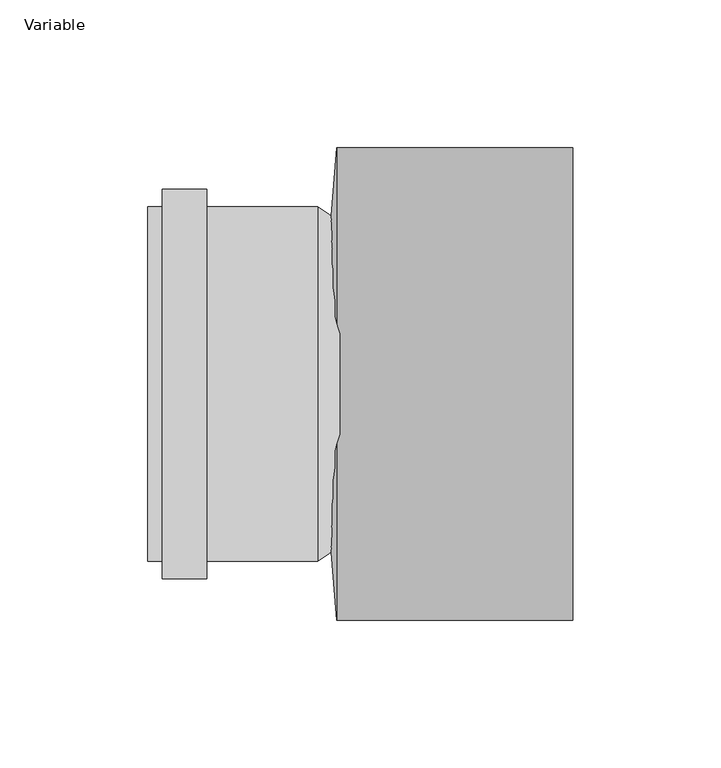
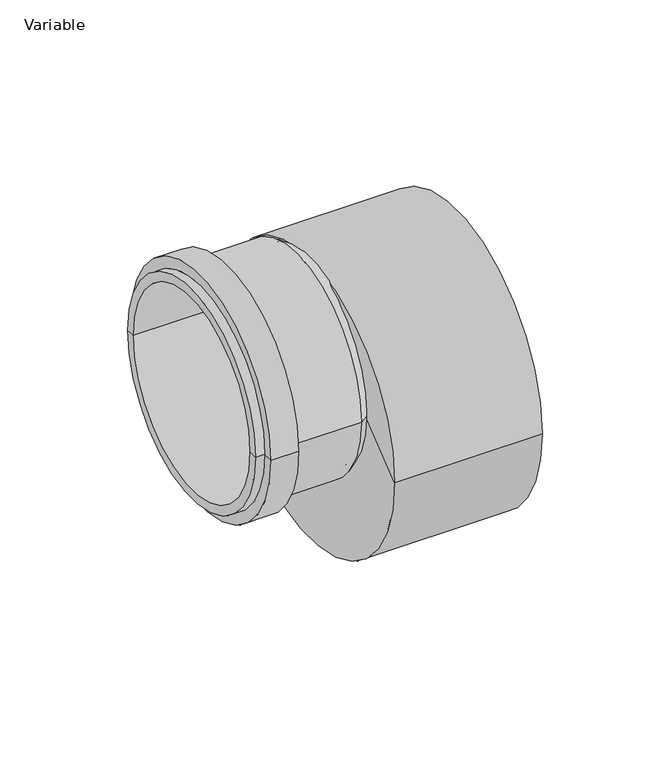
"""IFC4 building model written with IfcOpenShell, lengths in millimetres: pipe fitting geometry, AliaxisFR_Friaphon_Reducer_FR : Variable."""

from ifc_helpers import new_model, si_unit, point, frame, frame_2d, origin, origin_2d, place, context, project, spatial, polyline, circle_curve, trimmed, segment, composite_curve, outline, extrude, source, transform, mapped, element, save
from ifc_brep_helpers import plane_surface, cylinder_surface, revolved_surface, spline_surface, advanced_brep


def variable_2b32ee90(model_context):
    return source(origin(), model_context, "Body", "SolidModel", [
        advanced_brep(
        [(-102.0, -60.0, 0.0), (-102.0, 60.0, 0.0), (-102.0, 55.0, 0.0), (-102.0, -55.0, 0.0), (-82.0, -66.0, 0.0), (-82.0, 66.0, 0.0), (-97.0, 66.0, 0.0), (-97.0, -66.0, 0.0), (-82.0, -60.0, 0.0), (-82.0, 60.0, 0.0), (-44.5, -60.0, 0.0), (-44.5, 60.0, 0.0), (-37.0, 55.0, 0.0), (-37.0, -55.0, 0.0), (-97.0, -60.0, 0.0), (-97.0, 60.0, 0.0)],
        [
            (0, 1, circle_curve(frame((-102.0, 0.0, 0.0), z_axis=(-1.0, 0.0, 0.0), x_axis=(0.0, 1.0, 0.0)), 60.0)),
            (1, 2),
            (2, 3, circle_curve(frame((-102.0, 0.0, 0.0), z_axis=(1.0, 0.0, 0.0), x_axis=(0.0, 1.0, 0.0)), 55.0)),
            (3, 0),
            (1, 0, circle_curve(frame((-102.0, 0.0, 0.0), z_axis=(-1.0, 0.0, 0.0), x_axis=(0.0, 1.0, 0.0)), 60.0)),
            (3, 2, circle_curve(frame((-102.0, 0.0, 0.0), z_axis=(1.0, 0.0, 0.0), x_axis=(0.0, 1.0, 0.0)), 55.0)),
            (4, 5, circle_curve(frame((-82.0, 0.0, 0.0), z_axis=(-1.0, 0.0, 0.0), x_axis=(0.0, 1.0, 0.0)), 66.0)),
            (5, 6),
            (6, 7, circle_curve(frame((-97.0, 0.0, 0.0), z_axis=(1.0, 0.0, 0.0), x_axis=(0.0, 1.0, 0.0)), 66.0)),
            (7, 4),
            (5, 4, circle_curve(frame((-82.0, 0.0, 0.0), z_axis=(-1.0, 0.0, 0.0), x_axis=(0.0, 1.0, 0.0)), 66.0)),
            (7, 6, circle_curve(frame((-97.0, 0.0, 0.0), z_axis=(1.0, 0.0, 0.0), x_axis=(0.0, 1.0, 0.0)), 66.0)),
            (8, 9, circle_curve(frame((-82.0, 0.0, 0.0), z_axis=(-1.0, 0.0, 0.0), x_axis=(0.0, 1.0, 0.0)), 60.0)),
            (9, 5),
            (4, 8),
            (9, 8, circle_curve(frame((-82.0, 0.0, 0.0), z_axis=(-1.0, 0.0, 0.0), x_axis=(0.0, 1.0, 0.0)), 60.0)),
            (10, 11, circle_curve(frame((-44.5, 0.0, 0.0), z_axis=(-1.0, 0.0, 0.0), x_axis=(0.0, 1.0, 0.0)), 60.0)),
            (11, 9),
            (8, 10),
            (11, 10, circle_curve(frame((-44.5, 0.0, 0.0), z_axis=(-1.0, 0.0, 0.0), x_axis=(0.0, 1.0, 0.0)), 60.0)),
            (2, 12),
            (12, 13, circle_curve(frame((-37.0, 0.0, 0.0), z_axis=(1.0, 0.0, 0.0), x_axis=(0.0, 1.0, 0.0)), 55.0)),
            (13, 3),
            (13, 12, circle_curve(frame((-37.0, 0.0, 0.0), z_axis=(1.0, 0.0, 0.0), x_axis=(0.0, 1.0, 0.0)), 55.0)),
            (12, 11),
            (10, 13),
            (14, 15, circle_curve(frame((-97.0, 0.0, 0.0), z_axis=(-1.0, 0.0, 0.0), x_axis=(0.0, 1.0, 0.0)), 60.0)),
            (15, 1),
            (0, 14),
            (15, 14, circle_curve(frame((-97.0, 0.0, 0.0), z_axis=(-1.0, 0.0, 0.0), x_axis=(0.0, 1.0, 0.0)), 60.0)),
            (6, 15),
            (14, 7),
        ],
        [
            plane_surface(frame((-102.0, 0.0, 0.0), z_axis=(-1.0, 0.0, 0.0), x_axis=(0.0, 1.0, 0.0))),
            cylinder_surface(frame((-37.0, 0.0, 0.0), z_axis=(1.0, 0.0, 0.0), x_axis=(0.0, 1.0, 0.0)), 66.0),
            plane_surface(frame((-82.0, 0.0, 0.0), z_axis=(1.0, 0.0, 0.0), x_axis=(0.0, 1.0, 0.0))),
            cylinder_surface(frame((-37.0, 0.0, 0.0), z_axis=(1.0, 0.0, 0.0), x_axis=(0.0, 1.0, 0.0)), 60.0),
            revolved_surface(polyline([(-37.0, 55.0, 0.0), (-102.0, 55.0, 0.0)]), (-37.0, 0.0, 0.0), (1.0, 0.0, 0.0)),
            revolved_surface(polyline([(-44.5, 60.0, 0.0), (-37.0, 55.0, 0.0)]), (-37.0, 0.0, 0.0), (1.0, 0.0, 0.0)),
            plane_surface(frame((-97.0, 0.0, 0.0), z_axis=(-1.0, 0.0, 0.0), x_axis=(0.0, 1.0, 0.0))),
        ],
        [
            (0, [[1, 2, 3, 4]]),
            (0, [[5, -4, 6, -2]]),
            (1, [[7, 8, 9, 10]]),
            (1, [[11, -10, 12, -8]]),
            (2, [[13, 14, -7, 15]]),
            (2, [[16, -15, -11, -14]]),
            (3, [[17, 18, -13, 19]]),
            (3, [[20, -19, -16, -18]]),
            (4, [[-3, 21, 22, 23]]),
            (4, [[-6, -23, 24, -21]]),
            (5, [[-22, 25, -17, 26]]),
            (5, [[-24, -26, -20, -25]]),
            (3, [[27, 28, -1, 29]]),
            (3, [[30, -29, -5, -28]]),
            (6, [[-9, 31, -27, 32]]),
            (6, [[-12, -32, -30, -31]]),
        ],
    ),
        extrude(outline(composite_curve([segment(trimmed(circle_curve(origin_2d(), 55.0), [point((-55.0, 0.0))], [point((55.0, 0.0))], False, "CARTESIAN"), True, "CONTINUOUS"), segment(trimmed(circle_curve(origin_2d(), 55.0), [point((55.0, 0.0))], [point((-55.0, 0.0))], False, "CARTESIAN"), True, "CONTINUOUS")], self_intersect=False)), frame((-42.0, 0.0, 0.0), z_axis=(1.0, 0.0, 0.0), x_axis=(0.0, 1.0, 0.0)), (0.0, 0.0, 1.0), 2.0),
        advanced_brep(
        [(-40.0, -55.0, 0.0), (-40.0, 55.0, 0.0), (-38.0, -80.0, -25.0), (-38.0, 80.0, -25.0)],
        [
            (0, 1, circle_curve(frame((-40.0, 0.0, 0.0), z_axis=(-1.0, 0.0, 0.0), x_axis=(0.0, 1.0, 0.0)), 55.0)),
            (1, 0, circle_curve(frame((-40.0, 0.0, 0.0), z_axis=(-1.0, 0.0, 0.0), x_axis=(0.0, 1.0, 0.0)), 55.0)),
            (2, 3, circle_curve(frame((-38.0, 0.0, -25.0), z_axis=(1.0, 0.0, 0.0), x_axis=(0.0, 1.0, 0.0)), 80.0)),
            (3, 2, circle_curve(frame((-38.0, 0.0, -25.0), z_axis=(1.0, 0.0, 0.0), x_axis=(0.0, 1.0, 0.0)), 80.0)),
            (3, 1),
            (0, 2),
        ],
        [
            plane_surface(frame((-40.0, 0.0, 0.0), z_axis=(-1.0, 0.0, 0.0), x_axis=(0.0, 0.0, 1.0))),
            plane_surface(frame((-38.0, 0.0, -25.0), z_axis=(1.0, 0.0, 0.0), x_axis=(0.0, 0.0, 1.0))),
            spline_surface(2, 1, [[(-38.0, -80.0, -25.0), (-40.0, -55.0, 0.0)], [(-38.0, -80.0, 55.0), (-40.0, -55.0, 55.0)], [(-38.0, 0.0, 55.0), (-40.0, 0.0, 55.0)], [(-38.0, 80.0, 55.0), (-40.0, 55.0, 55.0)], [(-38.0, 80.0, -25.0), (-40.0, 55.0, 0.0)]], [3, 2, 3], [2, 2], [0.0, 1.0, 2.0], [0.0, 1.0], weights=[[1.0, 1.0], [0.7071067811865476, 0.7071067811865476], [1.0, 1.0], [0.7071067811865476, 0.7071067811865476], [1.0, 1.0]]),
            spline_surface(2, 1, [[(-38.0, 80.0, -25.0), (-40.0, 55.0, 0.0)], [(-38.0, 80.0, -105.0), (-40.0, 55.0, -55.0)], [(-38.0, 0.0, -105.0), (-40.0, 0.0, -55.0)], [(-38.0, -80.0, -105.0), (-40.0, -55.0, -55.0)], [(-38.0, -80.0, -25.0), (-40.0, -55.0, 0.0)]], [3, 2, 3], [2, 2], [0.0, 1.0, 2.0], [0.0, 1.0], weights=[[1.0, 1.0], [0.7071067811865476, 0.7071067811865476], [1.0, 1.0], [0.7071067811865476, 0.7071067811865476], [1.0, 1.0]]),
        ],
        [
            (0, [[1, 2]]),
            (1, [[3, 4]]),
            (2, [[-4, 5, -1, 6]]),
            (3, [[-3, -6, -2, -5]]),
        ],
    ),
        extrude(outline(composite_curve([segment(trimmed(circle_curve(frame_2d((0.0, -25.0)), 80.0), [point((-80.0, -25.0))], [point((80.0, -25.0))], False, "CARTESIAN"), True, "CONTINUOUS"), segment(trimmed(circle_curve(frame_2d((0.0, -25.0)), 80.0), [point((80.0, -25.0))], [point((-80.0, -25.0))], False, "CARTESIAN"), True, "CONTINUOUS")], self_intersect=False)), frame((-38.0, 0.0, 0.0), z_axis=(1.0, 0.0, 0.0), x_axis=(0.0, 1.0, 0.0)), (0.0, 0.0, 1.0), 80.0),
    ])


if __name__ == "__main__":
    model = new_model("IFC4")
    model_context = context("Model", 3, world=origin())
    ifc_project = project(units=[si_unit("LENGTHUNIT", "METRE", prefix="MILLI")], contexts=[model_context])
    site = spatial("IfcSite", under=ifc_project)
    building = spatial("IfcBuilding", under=site)
    placement = place(None, origin())
    variable_shape = variable_2b32ee90(model_context)
    element("IfcPipeFitting", 1, ObjectType="AliaxisFR_Friaphon_Reducer_FR : Variable", at=placement, inside=building, context=model_context, shape_type="MappedRepresentation", body=[
        mapped(variable_shape, transform((0.0, 0.0, 0.0), x_axis=(1.0, 0.0, 0.0), y_axis=(0.0, 1.0, 0.0), z_axis=(0.0, 0.0, 1.0))),
    ])
    save(model, "model.ifc")
